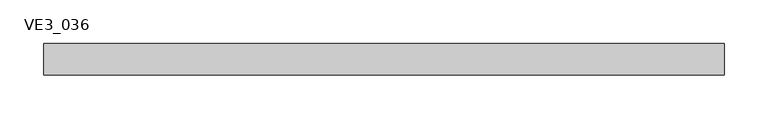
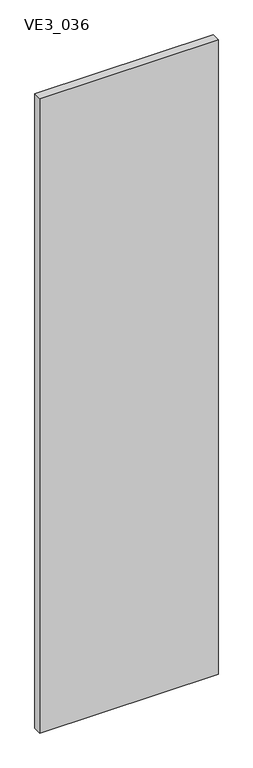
"""IFC4 building model written with IfcOpenShell, lengths in millimetres: plate geometry, TRP_CP_ARC_PF_RE_SE : VE3_036."""

from ifc_helpers import new_model, si_unit, frame, origin, place, context, project, spatial, polyline, outline, extrude, source, transform, mapped, element, save


def ve3_036_85d96793(model_context):
    return source(origin(), model_context, "Body", "SweptSolid", [
        extrude(outline(polyline([(390.0, 18.0), (390.0, -18.0), (-390.0, -18.0), (-390.0, 18.0), (390.0, 18.0)])), frame((0.0, 0.0, -3.1739529), z_axis=(0.0, 0.0, 1.0), x_axis=(1.0, 0.0, 0.0)), (0.0, 0.0, 1.0), 2933.1739529),
    ])


if __name__ == "__main__":
    model = new_model("IFC4")
    model_context = context("Model", 3, world=origin())
    ifc_project = project(units=[si_unit("LENGTHUNIT", "METRE", prefix="MILLI")], contexts=[model_context])
    site = spatial("IfcSite", under=ifc_project)
    building = spatial("IfcBuilding", under=site)
    placement = place(None, origin())
    ve3_036_shape = ve3_036_85d96793(model_context)
    element("IfcPlate", 1, ObjectType="TRP_CP_ARC_PF_RE_SE : VE3_036", at=placement, inside=building, context=model_context, shape_type="MappedRepresentation", body=[
        mapped(ve3_036_shape, transform((0.0, 0.0, 0.0), x_axis=(1.0, 0.0, 0.0), y_axis=(0.0, 1.0, 0.0), z_axis=(0.0, 0.0, 1.0))),
    ])
    save(model, "model.ifc")
